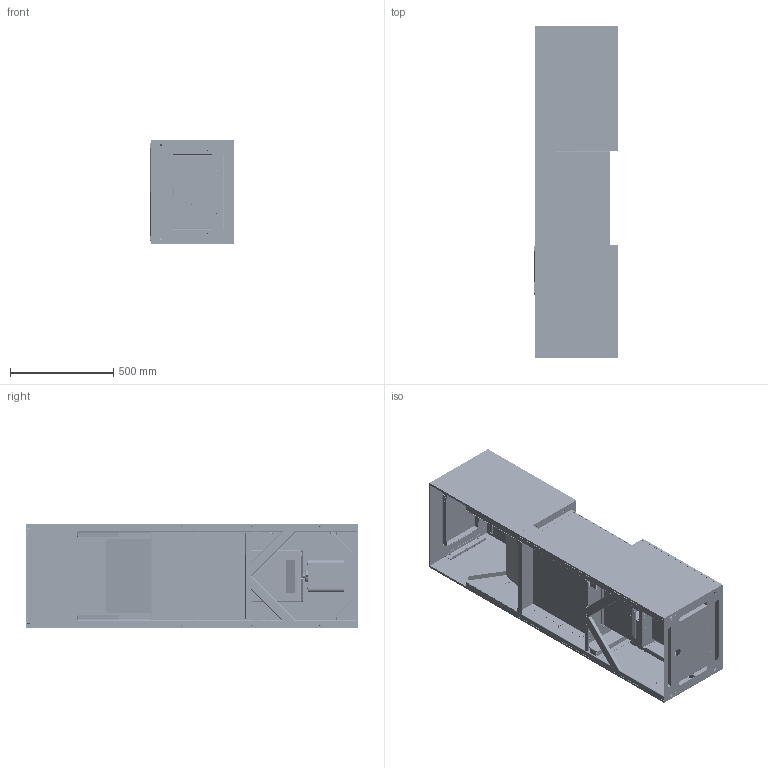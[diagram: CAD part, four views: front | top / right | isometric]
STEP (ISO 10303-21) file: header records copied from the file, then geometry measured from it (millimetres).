
FILE_DESCRIPTION (( 'STEP AP214' ), '1' );
FILE_NAME ('000112267.STEP', '2022-10-19T10:14:24', ( '' ), ( '' ), 'SwSTEP 2.0', 'SolidWorks 2019', '' );
FILE_SCHEMA (( 'AUTOMOTIVE_DESIGN' ));
Length unit declared in the file: millimetre
Products named in the file (126): Zbiornik Fanola 5L; 000113006; flush stud_pmm_PEM FH-M3-15 ZI--C; 000113008; 000112325; 000112365_000112365_EQUITONE_LUNARA; 000112358_000112358_DB; 000-034-530; 000112358_000112358_GF; 000113109; 000113391_000113382_DOLNE; 000112369; 000112316; 000092001; 000086776; 000112295; ZT-HF-01-D00_2.stp; 000113130_000113130_EQUITONE_LUNARA; 000088033; 000-029-116; ZT-HF-01-D00_pin1.stp; US-0088; 000113409; 000113383; Naklejka panelu sterowania; ZT-HF-01-D00_pin2.stp; 000113382_000113382_GàRNE; Zawias t³oczkowy ZT-HF-01-D00; 000095743; ZT-HF-01-D00_3.stp; 000062781; Nitonakrêtka z ko³nierzem_Nitonakr©tka M4 (1,5); 000112298; 000062777; 000113380; 000091998; 000112393_000112393_Front; OD015; ZT-HF-01-D00_4.stp; CANAL ELECTRONIC KS-202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
Assembly tree (207 placements, depth 5):
  000112267
    000112261
    000112262
    000112263
    000112369
      000112264
      welded_stud_ISO-13918-PT - M6 x 20 (A2)  x10
    000112268
    000112266
    000092002
      000092001
      000091998
      TW85
        LAPP 53111407
        LAPP 53119100
    Zbiornik Fanola 5L
    000112269
    000112295
      000112294
      welded_stud_ISO-13918-PT - M4 x 10 (A2)  x3
    000112295
      000112294
      welded_stud_ISO-13918-PT - M4 x 10 (A2)  x3
    000112298
    000112301_000112301_P_EQUITONE_LUNARA
      000112299_000112299_EQUITONE_LUNARA
      000112300  x4
      000113109  x4
    000112315
      000112325
        000-034-502
        000-034-528
        B-023-644
        B-000-462  x2
        000-034-530  x2
        000095743
        B-003-094  x2
        B-000-460  x2
      000063860
        B-023-864
          000-029-116
          B-023-863  x2
        000-049-408
      000065339
        000065343
        000065345
        B-000-457
        B-003-073
        welded_stud_ISO-13918-PT - M4 x 8 (A2)
        000-046-237
      000112316
      000086779
        000062775
        Nitonakrêtka z ko³nierzem_Nitonakr©tka M4 (1,5)  x3
      000086776
        000062781
        Nitonakrêtka z ko³nierzem_Nitonakr©tka M3  x11
      US-0088
      MEAN WELL LPV-60-12
      PZ-FLA3XT-0003
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Bounding box: 401.5 x 1604 x 500 mm (x, y, z)
Volume: 31780387.6 mm3; surface area: 11333052.7 mm2
Topology: 679 solids, 679 shells, 15434 faces, 38501 edges, 24663 vertices
Faces by surface type: plane 9531, cylinder 4897, cone 468, torus 270, bspline 177, sphere 91
Entity records: 491110 total; most frequent: CARTESIAN_POINT 89840, ORIENTED_EDGE 64580, DIRECTION 64007, EDGE_CURVE 32290, VECTOR 22639, LINE 22639, VERTEX_POINT 20796, AXIS2_PLACEMENT_3D 20684
